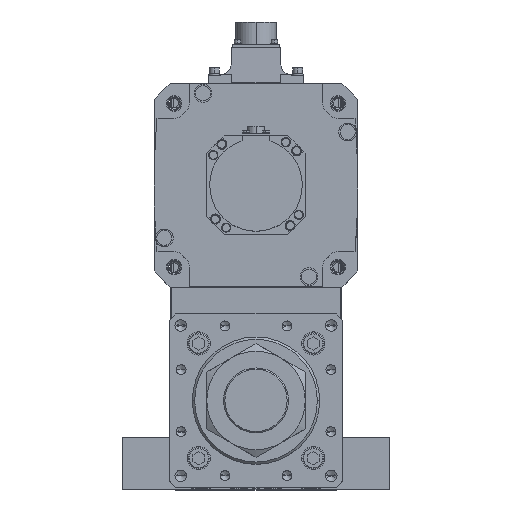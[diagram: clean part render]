
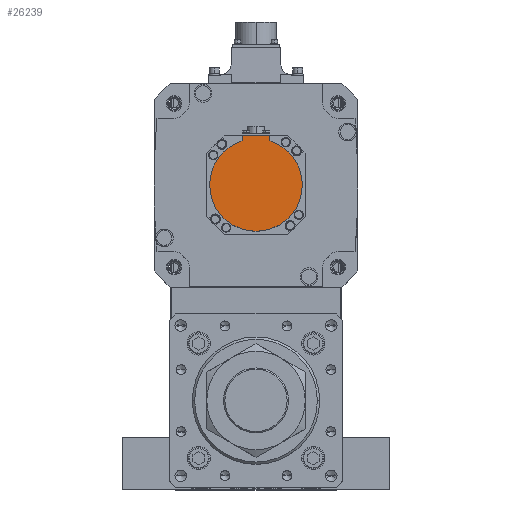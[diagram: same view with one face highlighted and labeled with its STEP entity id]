
A CAD part, top view. The second image highlights one B-rep face of the part: STEP entity #26239.
In plain terms, the highlighted planar face has unit normal (0, 0, 1) as drawn and (0, 0, -1) by its records, which use the part's own axes.
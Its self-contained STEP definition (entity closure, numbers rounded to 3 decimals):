
#561 = PLANE ( 'NONE',  #4418 ) ;
#1295 = CARTESIAN_POINT ( 'NONE',  ( 0., -42.5, -162.5 ) ) ;
#1834 = AXIS2_PLACEMENT_3D ( 'NONE', #47859, #26848, #39061 ) ;
#2095 = CIRCLE ( 'NONE', #35471, 40. ) ;
#2942 = LINE ( 'NONE', #14771, #49189 ) ;
#3840 = CARTESIAN_POINT ( 'NONE',  ( 0., 0., -162.5 ) ) ;
#4418 = AXIS2_PLACEMENT_3D ( 'NONE', #25646, #47203, #30161 ) ;
#6155 = ORIENTED_EDGE ( 'NONE', *, *, #38733, .F. ) ;
#7231 = EDGE_CURVE ( 'NONE', #42378, #30661, #2095, .T. ) ;
#8537 = EDGE_CURVE ( 'NONE', #37283, #42378, #16373, .T. ) ;
#11971 = CARTESIAN_POINT ( 'NONE',  ( 0., 0., -162.5 ) ) ;
#12034 = DIRECTION ( 'NONE',  ( 0., 0., 1. ) ) ;
#14043 = DIRECTION ( 'NONE',  ( 0., 1., 0. ) ) ;
#14771 = CARTESIAN_POINT ( 'NONE',  ( -12., -40.329, -162.5 ) ) ;
#15867 = DIRECTION ( 'NONE',  ( 1., 0., 0. ) ) ;
#16373 = LINE ( 'NONE', #29861, #27419 ) ;
#16693 = DIRECTION ( 'NONE',  ( 0., 0., 1. ) ) ;
#20132 = ORIENTED_EDGE ( 'NONE', *, *, #47884, .T. ) ;
#23379 = ORIENTED_EDGE ( 'NONE', *, *, #8537, .F. ) ;
#25646 = CARTESIAN_POINT ( 'NONE',  ( 0., -1.249, -162.5 ) ) ;
#25813 = CIRCLE ( 'NONE', #40041, 40. ) ;
#25852 = VERTEX_POINT ( 'NONE', #51041 ) ;
#26213 = EDGE_CURVE ( 'NONE', #37283, #40466, #34487, .T. ) ;
#26239 = ADVANCED_FACE ( 'NONE', ( #36446 ), #561, .F. ) ;
#26848 = DIRECTION ( 'NONE',  ( 0., 0., 1. ) ) ;
#27332 = CARTESIAN_POINT ( 'NONE',  ( -40., 0., -162.5 ) ) ;
#27419 = VECTOR ( 'NONE', #42332, 1000. ) ;
#27911 = VECTOR ( 'NONE', #29961, 1000. ) ;
#29861 = CARTESIAN_POINT ( 'NONE',  ( 12., -1.249, -162.5 ) ) ;
#29961 = DIRECTION ( 'NONE',  ( -1., 0., 0. ) ) ;
#30161 = DIRECTION ( 'NONE',  ( 1., 0., 0. ) ) ;
#30661 = VERTEX_POINT ( 'NONE', #49666 ) ;
#30775 = CARTESIAN_POINT ( 'NONE',  ( -12., -42.5, -162.5 ) ) ;
#30776 = ORIENTED_EDGE ( 'NONE', *, *, #53076, .F. ) ;
#34487 = LINE ( 'NONE', #1295, #27911 ) ;
#35471 = AXIS2_PLACEMENT_3D ( 'NONE', #11971, #16693, #50030 ) ;
#36446 = FACE_OUTER_BOUND ( 'NONE', #49153, .T. ) ;
#37283 = VERTEX_POINT ( 'NONE', #42934 ) ;
#38733 = EDGE_CURVE ( 'NONE', #30661, #40914, #51510, .T. ) ;
#39061 = DIRECTION ( 'NONE',  ( 1., 0., 0. ) ) ;
#40041 = AXIS2_PLACEMENT_3D ( 'NONE', #3840, #12034, #15867 ) ;
#40466 = VERTEX_POINT ( 'NONE', #30775 ) ;
#40914 = VERTEX_POINT ( 'NONE', #27332 ) ;
#41193 = CARTESIAN_POINT ( 'NONE',  ( 12., -38.158, -162.5 ) ) ;
#42332 = DIRECTION ( 'NONE',  ( 0., 1., 0. ) ) ;
#42378 = VERTEX_POINT ( 'NONE', #41193 ) ;
#42840 = ORIENTED_EDGE ( 'NONE', *, *, #26213, .T. ) ;
#42934 = CARTESIAN_POINT ( 'NONE',  ( 12., -42.5, -162.5 ) ) ;
#47203 = DIRECTION ( 'NONE',  ( 0., 0., 1. ) ) ;
#47859 = CARTESIAN_POINT ( 'NONE',  ( 0., 0., -162.5 ) ) ;
#47884 = EDGE_CURVE ( 'NONE', #40466, #25852, #2942, .T. ) ;
#49153 = EDGE_LOOP ( 'NONE', ( #20132, #30776, #6155, #51530, #23379, #42840 ) ) ;
#49189 = VECTOR ( 'NONE', #14043, 1000. ) ;
#49666 = CARTESIAN_POINT ( 'NONE',  ( 40., 0., -162.5 ) ) ;
#50030 = DIRECTION ( 'NONE',  ( 1., 0., 0. ) ) ;
#51041 = CARTESIAN_POINT ( 'NONE',  ( -12., -38.158, -162.5 ) ) ;
#51510 = CIRCLE ( 'NONE', #1834, 40. ) ;
#51530 = ORIENTED_EDGE ( 'NONE', *, *, #7231, .F. ) ;
#53076 = EDGE_CURVE ( 'NONE', #40914, #25852, #25813, .T. ) ;
